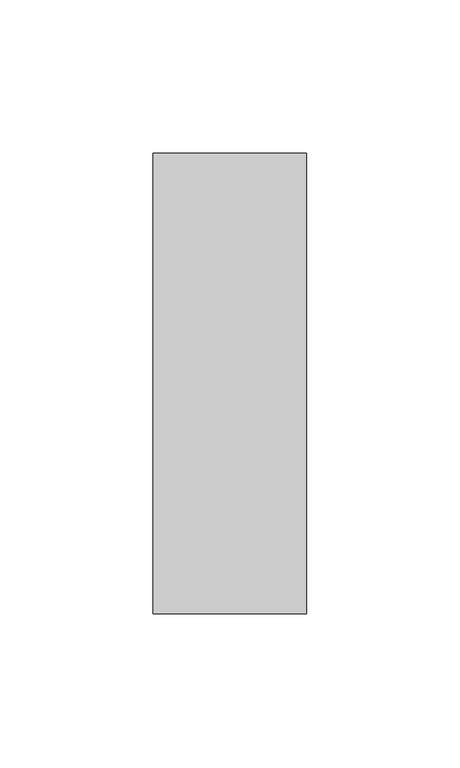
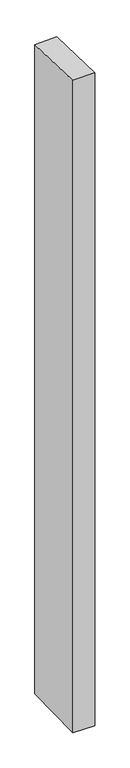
"""IFC4 building model written with IfcOpenShell, lengths in millimetres: member geometry, Прямоугольный импост : 50 x 150 мм."""

from ifc_helpers import new_model, si_unit, origin, place, context, project, spatial, faceted_brep, source, transform, mapped, element, save


def member_838908dd(model_context):
    return source(origin(), model_context, "Body", "Brep", [
        faceted_brep([(-25.0, 75.0, -3.1597903), (25.0, 75.0, -1.8031464), (25.0, 75.0, -1569.228498), (-25.0, 75.0, -1567.8728596), (-25.0, -75.0, 1.8031464), (-25.0, -75.0, -1570.6360363), (25.0, -75.0, 3.1597903), (25.0, -75.0, -1571.9916747)], [[[0, 1, 2, 3]], [[4, 0, 3, 5]], [[6, 4, 5, 7]], [[1, 6, 7, 2]], [[1, 0, 4, 6]], [[2, 7, 5, 3]]]),
    ])


if __name__ == "__main__":
    model = new_model("IFC4")
    model_context = context("Model", 3, world=origin())
    ifc_project = project(units=[si_unit("LENGTHUNIT", "METRE", prefix="MILLI")], contexts=[model_context])
    site = spatial("IfcSite", under=ifc_project)
    building = spatial("IfcBuilding", under=site)
    placement = place(None, origin())
    member_shape = member_838908dd(model_context)
    element("IfcMember", 1, ObjectType="Прямоугольный импост : 50 x 150 мм", at=placement, inside=building, context=model_context, shape_type="MappedRepresentation", body=[
        mapped(member_shape, transform((0.0, 0.0, 0.0), x_axis=(1.0, 0.0, 0.0), y_axis=(0.0, 1.0, 0.0), z_axis=(0.0, 0.0, 1.0))),
    ])
    save(model, "model.ifc")
